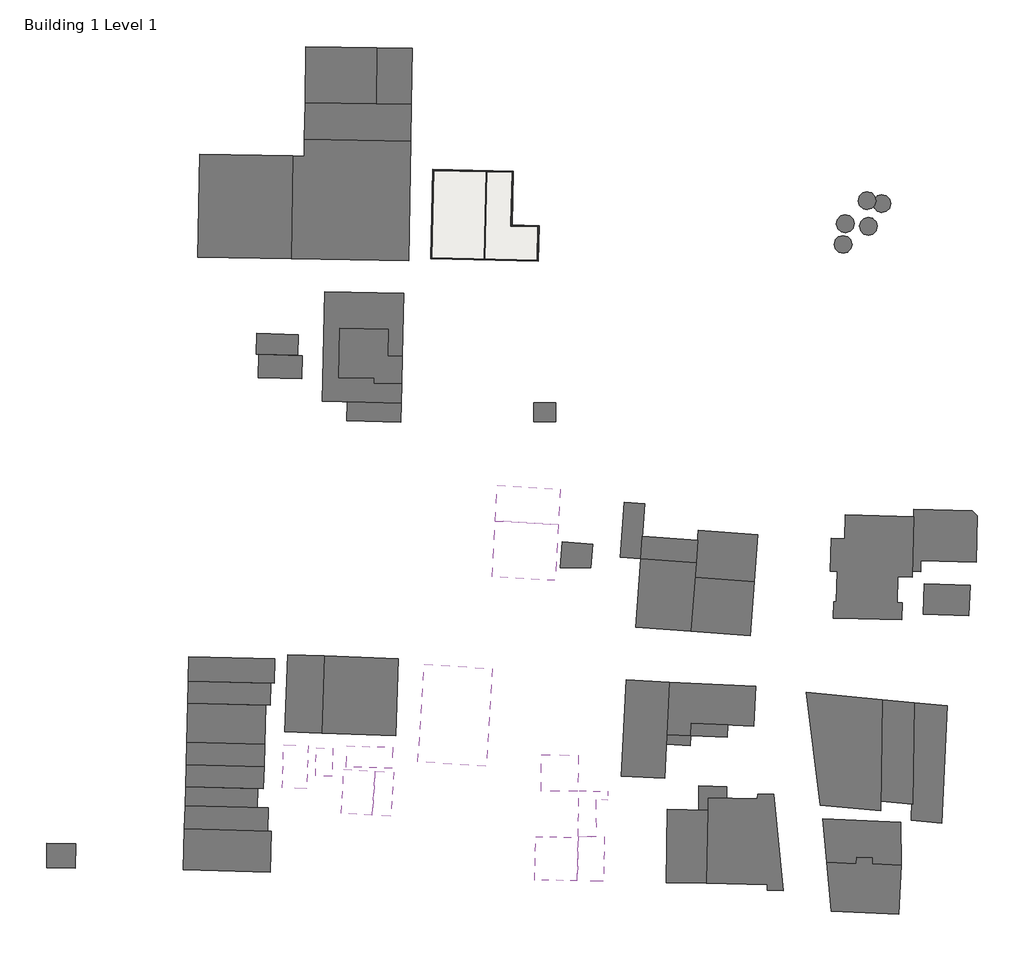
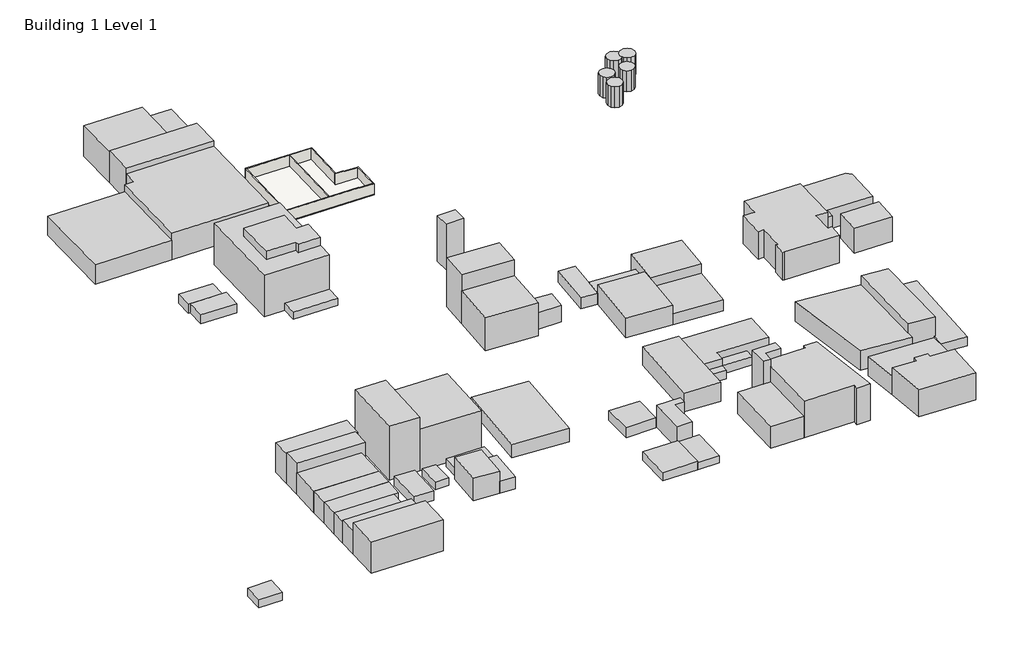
# One storey, incomplete: 60 proxies, 7 walls, 1 slab.
"""IFC4 building model written with IfcOpenShell, lengths in millimetres."""

from ifc_helpers import new_model, si_unit, frame, origin, origin_with_axes, place, context, project, spatial, polyline, outline, extrude, faceted_brep, triangles, element, save

model = new_model("IFC4")

# Units and contexts
model_context = context("Model", 3, world=origin())
ifc_project = project(units=[si_unit("LENGTHUNIT", "METRE", prefix="MILLI")], contexts=[model_context])

# Site, building, storey
site = spatial("IfcSite", under=ifc_project)
building = spatial("IfcBuilding", under=site)
storey = spatial("IfcBuildingStorey", under=building, Name="Building 1 Level 1", Elevation=0.0)

# Proxies
placement = place(None, origin())
element("IfcBuildingElementProxy", 1, Name="Generic Models", at=placement, inside=storey, context=model_context, shape_type="Tessellation", body=[
    triangles([(122449.8188232, -5578.5135635, 9586.0003464), (122449.8188232, -2530.5135635, 9586.0003464), (121334.175293, -1414.8684345, 9586.0003464), (119810.175293, -1006.5136362, 9586.0003464), (118286.175293, -1414.8684345, 9586.0003464), (118286.175293, -6694.1588379, 9586.0003464), (121334.175293, -6694.1588379, 9586.0003464), (119810.175293, -7102.5135635, 9586.0003464), (121334.175293, -6694.1588379, 441.9999104), (119810.175293, -7102.5135635, 441.9999104), (117170.5317627, -5578.5135635, 441.9999104), (119810.175293, -1006.5136362, 441.9999104), (121334.175293, -1414.8684345, 441.9999104), (122449.8188232, -2530.5135635, 441.9999104), (122858.175293, -4054.5138542, 441.9999104), (122449.8188232, -5578.5135635, 441.9999104), (122858.175293, -4054.5138542, 9586.0003464), (118286.175293, -1414.8684345, 441.9999104), (117170.5317627, -2530.5135635, 441.9999104), (117170.5317627, -2530.5135635, 9586.0003464), (116762.175293, -4054.5138542, 441.9999104), (117170.5317627, -5578.5135635, 9586.0003464), (116762.175293, -4054.5138542, 9586.0003464), (118286.175293, -6694.1588379, 441.9999104)], [[16, 17, 1], [16, 15, 17], [9, 1, 7], [9, 16, 1], [10, 7, 8], [10, 9, 7], [24, 8, 6], [24, 10, 8], [11, 6, 22], [11, 24, 6], [21, 22, 23], [21, 11, 22], [19, 23, 20], [19, 21, 23], [18, 20, 5], [18, 19, 20], [12, 5, 4], [12, 18, 5], [13, 4, 3], [13, 12, 4], [14, 3, 2], [14, 13, 3], [15, 2, 17], [15, 14, 2], [14, 15, 16], [12, 13, 14], [19, 18, 12], [11, 21, 19], [10, 24, 11], [16, 9, 10], [12, 14, 16], [11, 19, 12], [16, 10, 11], [11, 12, 16], [1, 4, 22], [22, 8, 1], [4, 20, 22], [1, 2, 4], [8, 7, 1], [22, 6, 8], [20, 23, 22], [4, 5, 20], [2, 3, 4], [1, 17, 2]]),
])
element("IfcBuildingElementProxy", 2, Name="Generic Models", at=placement, inside=storey, context=model_context, shape_type="Tessellation", body=[
    triangles([(123179.0115234, 1482.4019577, 9182.5057892), (123179.0115234, 4530.4022484, 9182.5057892), (122063.3679932, 5646.0472321, 9182.5057892), (120539.3679932, 6054.4019577, 9182.5057892), (119015.3679932, 5646.0472321, 9182.5057892), (119015.3679932, 366.7567197, 9182.5057892), (122063.3679932, 366.7567197, 9182.5057892), (120539.3679932, -41.5980378, 9182.5057892), (122063.3679932, 366.7567197, 38.5056075), (120539.3679932, -41.5980378, 38.5056075), (117899.7244629, 1482.4019577, 38.5056075), (120539.3679932, 6054.4019577, 38.5056075), (122063.3679932, 5646.0472321, 38.5056075), (123179.0115234, 4530.4022484, 38.5056075), (123587.3679932, 3006.4019577, 38.5056075), (123179.0115234, 1482.4019577, 38.5056075), (123587.3679932, 3006.4019577, 9182.5057892), (119015.3679932, 5646.0472321, 38.5056075), (117899.7244629, 4530.4022484, 38.5056075), (117899.7244629, 4530.4022484, 9182.5057892), (117491.3679932, 3006.4019577, 38.5056075), (117899.7244629, 1482.4019577, 9182.5057892), (117491.3679932, 3006.4019577, 9182.5057892), (119015.3679932, 366.7567197, 38.5056075)], [[16, 17, 1], [16, 15, 17], [9, 1, 7], [9, 16, 1], [10, 7, 8], [10, 9, 7], [24, 8, 6], [24, 10, 8], [11, 6, 22], [11, 24, 6], [21, 22, 23], [21, 11, 22], [19, 23, 20], [19, 21, 23], [18, 20, 5], [18, 19, 20], [12, 5, 4], [12, 18, 5], [13, 4, 3], [13, 12, 4], [14, 3, 2], [14, 13, 3], [15, 2, 17], [15, 14, 2], [14, 15, 16], [12, 13, 14], [19, 18, 12], [11, 21, 19], [10, 24, 11], [16, 9, 10], [12, 14, 16], [11, 19, 12], [16, 10, 11], [11, 12, 16], [1, 4, 22], [22, 8, 1], [4, 20, 22], [1, 2, 4], [8, 7, 1], [22, 6, 8], [20, 23, 22], [4, 5, 20], [2, 3, 4], [1, 17, 2]]),
])
element("IfcBuildingElementProxy", 3, Name="Generic Models", at=placement, inside=storey, context=model_context, shape_type="Tessellation", body=[
    triangles([(131074.2412354, 617.6017645, 9810.1628265), (131074.2412354, 3665.6018372, 9810.1628265), (129958.5977051, 4781.2471115, 9810.1628265), (128434.5977051, 5189.6018372, 9810.1628265), (126910.5977051, 4781.2471115, 9810.1628265), (126910.5977051, -498.0435462, 9810.1628265), (129958.5977051, -498.0435462, 9810.1628265), (128434.5977051, -906.3983082, 9810.1628265), (129958.5977051, -498.0435462, 666.1628265), (128434.5977051, -906.3983082, 666.1628265), (125794.9541748, 617.6017645, 666.1628265), (128434.5977051, 5189.6018372, 666.1628265), (129958.5977051, 4781.2471115, 666.1628265), (131074.2412354, 3665.6018372, 666.1628265), (131482.5977051, 2141.6018372, 666.1628265), (131074.2412354, 617.6017645, 666.1628265), (131482.5977051, 2141.6018372, 9810.1628265), (126910.5977051, 4781.2471115, 666.1628265), (125794.9541748, 3665.6018372, 666.1628265), (125794.9541748, 3665.6018372, 9810.1628265), (125386.5977051, 2141.6018372, 666.1628265), (125794.9541748, 617.6017645, 9810.1628265), (125386.5977051, 2141.6018372, 9810.1628265), (126910.5977051, -498.0435462, 666.1628265)], [[16, 17, 1], [16, 15, 17], [9, 1, 7], [9, 16, 1], [10, 7, 8], [10, 9, 7], [24, 8, 6], [24, 10, 8], [11, 6, 22], [11, 24, 6], [21, 22, 23], [21, 11, 22], [19, 23, 20], [19, 21, 23], [18, 20, 5], [18, 19, 20], [12, 5, 4], [12, 18, 5], [13, 4, 3], [13, 12, 4], [14, 3, 2], [14, 13, 3], [15, 2, 17], [15, 14, 2], [14, 15, 16], [12, 13, 14], [19, 18, 12], [11, 21, 19], [10, 24, 11], [16, 9, 10], [12, 14, 16], [11, 19, 12], [16, 10, 11], [11, 12, 16], [1, 4, 22], [22, 8, 1], [4, 20, 22], [1, 2, 4], [8, 7, 1], [22, 6, 8], [20, 23, 22], [4, 5, 20], [2, 3, 4], [1, 17, 2]]),
])
element("IfcBuildingElementProxy", 4, Name="Generic Models", at=placement, inside=storey, context=model_context, shape_type="Tessellation", body=[
    triangles([(130608.33479, 9325.626123, 9180.0780304), (130608.33479, 12373.626123, 9180.0780304), (129492.6912598, 13489.270816, 9180.0780304), (127968.6912598, 13897.626123, 9180.0780304), (126444.6912598, 13489.270816, 9180.0780304), (126444.6912598, 8209.9808487, 9180.0780304), (129492.6912598, 8209.9808487, 9180.0780304), (127968.6912598, 7801.626123, 9180.0780304), (129492.6912598, 8209.9808487, 36.0780281), (127968.6912598, 7801.626123, 36.0780281), (125329.0477295, 9325.626123, 36.0780281), (127968.6912598, 13897.626123, 36.0780281), (129492.6912598, 13489.270816, 36.0780281), (130608.33479, 12373.626123, 36.0780281), (131016.6912598, 10849.626123, 36.0780281), (130608.33479, 9325.626123, 36.0780281), (131016.6912598, 10849.626123, 9180.0780304), (126444.6912598, 13489.270816, 36.0780281), (125329.0477295, 12373.626123, 36.0780281), (125329.0477295, 12373.626123, 9180.0780304), (124920.6912598, 10849.626123, 36.0780281), (125329.0477295, 9325.626123, 9180.0780304), (124920.6912598, 10849.626123, 9180.0780304), (126444.6912598, 8209.9808487, 36.0780281)], [[16, 17, 1], [16, 15, 17], [9, 1, 7], [9, 16, 1], [10, 7, 8], [10, 9, 7], [24, 8, 6], [24, 10, 8], [11, 6, 22], [11, 24, 6], [21, 22, 23], [21, 11, 22], [19, 23, 20], [19, 21, 23], [18, 20, 5], [18, 19, 20], [12, 5, 4], [12, 18, 5], [13, 4, 3], [13, 12, 4], [14, 3, 2], [14, 13, 3], [15, 2, 17], [15, 14, 2], [14, 15, 16], [12, 13, 14], [19, 18, 12], [11, 21, 19], [10, 24, 11], [16, 9, 10], [12, 14, 16], [11, 19, 12], [16, 10, 11], [11, 12, 16], [1, 4, 22], [22, 8, 1], [4, 20, 22], [1, 2, 4], [8, 7, 1], [22, 6, 8], [20, 23, 22], [4, 5, 20], [2, 3, 4], [1, 17, 2]]),
])
element("IfcBuildingElementProxy", 5, Name="Generic Models", at=placement, inside=storey, context=model_context, shape_type="Tessellation", body=[
    triangles([(135650.3619141, 8340.4676514, 9330.1153839), (135650.3619141, 11388.4676514, 9330.1153839), (134534.7183838, 12504.1123444, 9330.1153839), (133010.7183838, 12912.4676514, 9330.1153839), (131486.7183838, 12504.1123444, 9330.1153839), (131486.7183838, 7224.822377, 9330.1153839), (134534.7183838, 7224.822377, 9330.1153839), (133010.7183838, 6816.4676514, 9330.1153839), (134534.7183838, 7224.822377, 186.1152386), (133010.7183838, 6816.4676514, 186.1152386), (130371.0748535, 8340.4676514, 186.1152386), (133010.7183838, 12912.4676514, 186.1152386), (134534.7183838, 12504.1123444, 186.1152386), (135650.3619141, 11388.4676514, 186.1152386), (136058.7183838, 9864.4676514, 186.1152386), (135650.3619141, 8340.4676514, 186.1152386), (136058.7183838, 9864.4676514, 9330.1153839), (131486.7183838, 12504.1123444, 186.1152386), (130371.0748535, 11388.4676514, 186.1152386), (130371.0748535, 11388.4676514, 9330.1153839), (129962.7183838, 9864.4676514, 186.1152386), (130371.0748535, 8340.4676514, 9330.1153839), (129962.7183838, 9864.4676514, 9330.1153839), (131486.7183838, 7224.822377, 186.1152386)], [[16, 17, 1], [16, 15, 17], [9, 1, 7], [9, 16, 1], [10, 7, 8], [10, 9, 7], [24, 8, 6], [24, 10, 8], [11, 6, 22], [11, 24, 6], [21, 22, 23], [21, 11, 22], [19, 23, 20], [19, 21, 23], [18, 20, 5], [18, 19, 20], [12, 5, 4], [12, 18, 5], [13, 4, 3], [13, 12, 4], [14, 3, 2], [14, 13, 3], [15, 2, 17], [15, 14, 2], [14, 15, 16], [12, 13, 14], [19, 18, 12], [11, 21, 19], [10, 24, 11], [16, 9, 10], [12, 14, 16], [11, 19, 12], [16, 10, 11], [11, 12, 16], [1, 4, 22], [22, 8, 1], [4, 20, 22], [1, 2, 4], [8, 7, 1], [22, 6, 8], [20, 23, 22], [4, 5, 20], [2, 3, 4], [1, 17, 2]]),
])
element("IfcBuildingElementProxy", 6, Name="Generic Models", at=placement, inside=storey, context=model_context, shape_type="SweptSolid", body=[
    extrude(outline(polyline([(21939.5635295, -57968.5058491), (21980.9932444, -64358.7731376), (14516.3685734, -64407.1681825), (14474.9388585, -58016.9008939), (21939.5635295, -57968.5058491)])), frame((0.0, 0.0, 119.5273507), z_axis=(0.0, 0.0, 1.0), x_axis=(1.0, 0.0, 0.0)), (0.0, 0.0, 1.0), 20116.8),
])
element("IfcBuildingElementProxy", 7, Name="Generic Models", at=placement, inside=storey, context=model_context, shape_type="SweptSolid", body=[
    extrude(outline(polyline([(-30501.1282495, -51424.6629848), (-39749.1862067, -51223.223163), (-39714.0648617, -49610.8099321), (-51962.0104973, -49344.0270035), (-51596.483399, -32562.7582274), (-34953.7562435, -32925.2676328), (-35152.8071139, -42063.6493598), (-30299.5306766, -42169.3627047), (-30501.1282495, -51424.6629848)])), frame((0.0, 0.0, 535.2819969), z_axis=(0.0, 0.0, 1.0), x_axis=(1.0, 0.0, 0.0)), (0.0, 0.0, 1.0), 21945.6),
])
element("IfcBuildingElementProxy", 8, Name="Generic Models", at=placement, inside=storey, context=model_context, shape_type="SweptSolid", body=[
    extrude(outline(polyline([(-30501.1281004, -51424.6626782), (-30645.2238472, -58040.0656721), (-57533.3919371, -57454.3915013), (-56719.9481775, -20109.373349), (-29831.7800876, -20695.0475199), (-30299.5308866, -42169.3627077), (-35152.8071394, -42063.6493626), (-34953.756236, -32925.2673078), (-51596.4831342, -32562.758534), (-51962.0102872, -49344.0271306), (-39714.0648594, -49610.8098912), (-39749.1862324, -51223.2228196), (-30501.1281004, -51424.6626782)])), frame((0.0, 0.0, 535.2817421), z_axis=(0.0, 0.0, 1.0), x_axis=(1.0, 0.0, 0.0)), (0.0, 0.0, 1.0), 18288.0),
])
element("IfcBuildingElementProxy", 9, Name="Generic Models", at=placement, inside=storey, context=model_context, shape_type="SweptSolid", body=[
    extrude(outline(polyline([(-30645.2239137, -58040.0648933), (-30786.2485517, -64514.4878727), (-49201.6688561, -64113.3667239), (-49060.644218, -57638.9437445), (-30645.2239137, -58040.0648933)])), frame((0.0, 0.0, 535.2816887), z_axis=(0.0, 0.0, 1.0), x_axis=(1.0, 0.0, 0.0)), (0.0, 0.0, 1.0), 3048.0),
])
element("IfcBuildingElementProxy", 10, Name="Generic Models", at=placement, inside=storey, context=model_context, shape_type="SweptSolid", body=[
    extrude(outline(polyline([(-80043.5560845, -41483.7521162), (-79868.6562399, -34360.7567245), (-65723.6762249, -34708.0761695), (-65898.5760695, -41831.0715612), (-80043.5560845, -41483.7521162)])), frame((0.0, 0.0, 181.3121406), z_axis=(0.0, 0.0, 1.0), x_axis=(1.0, 0.0, 0.0)), (0.0, 0.0, 1.0), 3962.4),
])
element("IfcBuildingElementProxy", 11, Name="Generic Models", at=placement, inside=storey, context=model_context, shape_type="SweptSolid", body=[
    extrude(outline(polyline([(-79130.8304949, -41506.1635076), (-64368.2240706, -41868.6483004), (-64563.0693763, -49803.9416703), (-79325.6757066, -49441.4568797), (-79130.8304949, -41506.1635076)])), frame((0.0, 0.0, 181.3121406), z_axis=(0.0, 0.0, 1.0), x_axis=(1.0, 0.0, 0.0)), (0.0, 0.0, 1.0), 3962.3999798),
])
element("IfcBuildingElementProxy", 12, Name="Generic Models", at=placement, inside=storey, context=model_context, shape_type="SweptSolid", body=[
    extrude(outline(polyline([(362.7563064, -117201.6173356), (1458.4008949, -98206.5087121), (22816.8212397, -99438.4699571), (21721.1766784, -118433.5781091), (362.7563064, -117201.6173356)])), frame((0.0, 0.0, 1343.5505682), z_axis=(0.0, 0.0, 1.0), x_axis=(1.0, 0.0, 0.0)), (0.0, 0.0, 1.0), 14630.4),
])
element("IfcBuildingElementProxy", 13, Name="Generic Models", at=placement, inside=storey, context=model_context, shape_type="SweptSolid", body=[
    extrude(outline(polyline([(1458.4010625, -98206.5084832), (2157.1287945, -86092.7126984), (23515.549335, -87324.6737044), (22816.8216186, -99438.4692179), (1458.4010625, -98206.5084832)])), frame((0.0, 0.0, 1343.5507162), z_axis=(0.0, 0.0, 1.0), x_axis=(1.0, 0.0, 0.0)), (0.0, 0.0, 1.0), 21640.8002808),
])
element("IfcBuildingElementProxy", 14, Name="Generic Models", at=placement, inside=storey, context=model_context, shape_type="SweptSolid", body=[
    extrude(outline(polyline([(23555.1794345, -114080.6899242), (24234.3619096, -105243.3780103), (34587.0693816, -106039.0246451), (33970.43274, -114062.5095536), (23555.1794345, -114080.6899242)])), frame((0.0, 0.0, 598.9723737), z_axis=(0.0, 0.0, 1.0), x_axis=(1.0, 0.0, 0.0)), (0.0, 0.0, 1.0), 7315.2),
])
element("IfcBuildingElementProxy", 15, Name="Generic Models", at=placement, inside=storey, context=model_context, shape_type="SweptSolid", body=[
    extrude(outline(polyline([(49160.7242168, -134405.5926024), (50896.6849999, -111072.9325827), (69739.7833916, -112474.8678877), (68003.8226085, -135807.5279073), (49160.7242168, -134405.5926024)])), frame((0.0, 0.0, 598.9724172), z_axis=(0.0, 0.0, 1.0), x_axis=(1.0, 0.0, 0.0)), (0.0, 0.0, 1.0), 8534.4),
])
element("IfcBuildingElementProxy", 16, Name="Generic Models", at=placement, inside=storey, context=model_context, shape_type="SweptSolid", body=[
    extrude(outline(polyline([(68003.8226442, -135807.5283713), (69371.6354166, -117423.0666264), (89523.5719236, -118922.3803689), (88155.7591512, -137306.8421137), (68003.8226442, -135807.5283713)])), frame((0.0, 0.0, 598.9724241), z_axis=(0.0, 0.0, 1.0), x_axis=(1.0, 0.0, 0.0)), (0.0, 0.0, 1.0), 4876.8),
])
element("IfcBuildingElementProxy", 17, Name="Generic Models", at=placement, inside=storey, context=model_context, shape_type="SweptSolid", body=[
    extrude(outline(polyline([(69371.6350967, -117423.0665145), (70570.9058819, -101303.9401715), (90722.8422858, -102803.2537457), (89523.5716646, -118922.3803282), (69371.6350967, -117423.0665145)])), frame((0.0, 0.0, 598.972394), z_axis=(0.0, 0.0, 1.0), x_axis=(1.0, 0.0, 0.0)), (0.0, 0.0, 1.0), 9144.0),
])
element("IfcBuildingElementProxy", 18, Name="Generic Models", at=placement, inside=storey, context=model_context, shape_type="SweptSolid", body=[
    extrude(outline(polyline([(69739.7836046, -112474.8676962), (50896.6849642, -111072.9321188), (51468.4374609, -103388.1390758), (70311.5358386, -104790.0746336), (69739.7836046, -112474.8676962)])), frame((0.0, 0.0, 598.9724241), z_axis=(0.0, 0.0, 1.0), x_axis=(1.0, 0.0, 0.0)), (0.0, 0.0, 1.0), 4876.8000301),
])
element("IfcBuildingElementProxy", 19, Name="Generic Models", at=placement, inside=storey, context=model_context, shape_type="SweptSolid", body=[
    extrude(outline(polyline([(50896.6852839, -111072.932095), (43986.2417597, -110558.7918752), (45380.1249396, -91823.9202926), (52290.5684638, -92338.0605124), (50896.6852839, -111072.932095)])), frame((0.0, 0.0, 598.972409), z_axis=(0.0, 0.0, 1.0), x_axis=(1.0, 0.0, 0.0)), (0.0, 0.0, 1.0), 4876.8000603),
])
element("IfcBuildingElementProxy", 20, Name="Generic Models", at=placement, inside=storey, context=model_context, shape_type="SweptSolid", body=[
    extrude(outline(polyline([(117390.534194, -131260.4427507), (116532.4832648, -131239.0084212), (116671.4088452, -125677.59241), (117529.4597744, -125699.0267395), (117788.3259823, -115336.1931271), (115448.6512229, -115277.7474591), (115728.2468775, -104085.0805192), (120415.8676885, -104202.1784742), (120617.806637, -96118.2352696), (143829.9410868, -96698.0802666), (143315.7768165, -117280.9088423), (138465.8154627, -117159.7555794), (138244.5207535, -126018.5412411), (139863.807461, -126058.9914332), (139719.9400492, -131818.2369638), (117390.534194, -131260.4427507)])), frame((0.0, 0.0, 413.2098301), z_axis=(0.0, 0.0, 1.0), x_axis=(1.0, 0.0, 0.0)), (0.0, 0.0, 1.0), 12192.0),
])
element("IfcBuildingElementProxy", 21, Name="Generic Models", at=placement, inside=storey, context=model_context, shape_type="SweptSolid", body=[
    extrude(outline(polyline([(143364.7130893, -115321.898309), (143890.7365095, -94264.3565806), (163770.1432231, -94760.9498509), (165542.2845444, -96364.9974262), (165147.2263804, -112179.7947387), (146295.0655855, -111708.8623655), (146203.0397558, -115392.8005216), (143364.7130893, -115321.898309)])), frame((0.0, 0.0, 413.2096355), z_axis=(0.0, 0.0, 1.0), x_axis=(1.0, 0.0, 0.0)), (0.0, 0.0, 1.0), 8534.4),
])
element("IfcBuildingElementProxy", 22, Name="Generic Models", at=placement, inside=storey, context=model_context, shape_type="SweptSolid", body=[
    extrude(outline(polyline([(147474.6870918, -119517.175646), (163019.6160716, -120072.3986166), (162646.7377176, -130512.1099373), (147101.8087377, -129956.8869667), (147474.6870918, -119517.175646)])), frame((0.0, 0.0, 945.4610232), z_axis=(0.0, 0.0, 1.0), x_axis=(1.0, 0.0, 0.0)), (0.0, 0.0, 1.0), 10972.8),
])
element("IfcBuildingElementProxy", 23, Name="Generic Models", at=placement, inside=storey, context=model_context, shape_type="SweptSolid", body=[
    extrude(outline(polyline([(-151355.4530322, -216219.5355296), (-151254.9983982, -207860.191637), (-141495.9870962, -207977.466141), (-141596.4417302, -216336.8100336), (-151355.4530322, -216219.5355296)])), frame((0.0, 0.0, 1064.2277307), z_axis=(0.0, 0.0, 1.0), x_axis=(1.0, 0.0, 0.0)), (0.0, 0.0, 1.0), 3657.6),
])
element("IfcBuildingElementProxy", 24, Name="Generic Models", at=placement, inside=storey, context=model_context, shape_type="SweptSolid", body=[
    extrude(outline(polyline([(-103111.7033654, -152728.0077582), (-102893.8171594, -144354.0142461), (-73688.5539926, -145113.917389), (-73906.4401987, -153487.9109011), (-103111.7033654, -152728.0077582)])), frame((0.0, 0.0, 413.6726223), z_axis=(0.0, 0.0, 1.0), x_axis=(1.0, 0.0, 0.0)), (0.0, 0.0, 1.0), 13106.4),
])
element("IfcBuildingElementProxy", 25, Name="Generic Models", at=placement, inside=storey, context=model_context, shape_type="SweptSolid", body=[
    extrude(outline(polyline([(-103111.7032335, -152728.0077949), (-74947.3164486, -153460.8280175), (-75142.9089765, -160978.0195831), (-103307.2957835, -160245.2002096), (-103111.7032335, -152728.0077949)])), frame((0.0, 0.0, 413.6728542), z_axis=(0.0, 0.0, 1.0), x_axis=(1.0, 0.0, 0.0)), (0.0, 0.0, 1.0), 13716.0),
])
element("IfcBuildingElementProxy", 26, Name="Generic Models", at=placement, inside=storey, context=model_context, shape_type="SweptSolid", body=[
    extrude(outline(polyline([(-103307.2959308, -160245.2000923), (-76735.4247372, -160936.5831755), (-77079.2491549, -174150.7597506), (-103651.1203486, -173459.3766674), (-103307.2959308, -160245.2000923)])), frame((0.0, 0.0, 413.6730526), z_axis=(0.0, 0.0, 1.0), x_axis=(1.0, 0.0, 0.0)), (0.0, 0.0, 1.0), 9448.8),
])
element("IfcBuildingElementProxy", 27, Name="Generic Models", at=placement, inside=storey, context=model_context, shape_type="SweptSolid", body=[
    extrude(outline(polyline([(-103651.1201381, -173459.3768063), (-77063.8877994, -174151.1595098), (-77262.3585539, -181778.9710117), (-103849.5908926, -181087.1883083), (-103651.1201381, -173459.3768063)])), frame((0.0, 0.0, 413.6730091), z_axis=(0.0, 0.0, 1.0), x_axis=(1.0, 0.0, 0.0)), (0.0, 0.0, 1.0), 9448.800087),
])
element("IfcBuildingElementProxy", 28, Name="Generic Models", at=placement, inside=storey, context=model_context, shape_type="SweptSolid", body=[
    extrude(outline(polyline([(-103849.5911755, -181087.1883877), (-77262.3585858, -181778.9711006), (-77594.6818811, -189390.0638766), (-104047.7180534, -188701.7717945), (-103849.5911755, -181087.1883877)])), frame((0.0, 0.0, 413.6730091), z_axis=(0.0, 0.0, 1.0), x_axis=(1.0, 0.0, 0.0)), (0.0, 0.0, 1.0), 9448.800087),
])
element("IfcBuildingElementProxy", 29, Name="Generic Models", at=placement, inside=storey, context=model_context, shape_type="SweptSolid", body=[
    extrude(outline(polyline([(-104047.7184878, -188701.771865), (-79479.5595131, -189341.0205218), (-79646.9468072, -195774.1942294), (-104215.1057819, -195134.9455725), (-104047.7184878, -188701.771865)])), frame((0.0, 0.0, 413.6730091), z_axis=(0.0, 0.0, 1.0), x_axis=(1.0, 0.0, 0.0)), (0.0, 0.0, 1.0), 9448.800087),
])
element("IfcBuildingElementProxy", 30, Name="Generic Models", at=placement, inside=storey, context=model_context, shape_type="SweptSolid", body=[
    extrude(outline(polyline([(-104215.1057035, -195134.9456899), (-75912.3677241, -195871.3657783), (-76117.9281162, -203771.6417329), (-104420.6660956, -203035.2216445), (-104215.1057035, -195134.9456899)])), frame((0.0, 0.0, 413.6730091), z_axis=(0.0, 0.0, 1.0), x_axis=(1.0, 0.0, 0.0)), (0.0, 0.0, 1.0), 10058.4),
])
element("IfcBuildingElementProxy", 31, Name="Generic Models", at=placement, inside=storey, context=model_context, shape_type="SweptSolid", body=[
    extrude(outline(polyline([(-104420.6663468, -203035.2217262), (-74779.8752768, -203806.4569589), (-75141.2447551, -217694.9267159), (-104782.0358251, -216923.6914832), (-104420.6663468, -203035.2217262)])), frame((0.0, 0.0, 413.6729321), z_axis=(0.0, 0.0, 1.0), x_axis=(1.0, 0.0, 0.0)), (0.0, 0.0, 1.0), 13716.0),
])
element("IfcBuildingElementProxy", 32, Name="Generic Models", at=placement, inside=storey, context=model_context, shape_type="SweptSolid", body=[
    extrude(outline(polyline([(-70613.0931445, -174417.0293676), (-62288.1886094, -174693.0474003), (-62773.879137, -189341.8268156), (-71098.7836721, -189065.8087829), (-70613.0931445, -174417.0293676)])), frame((0.0, 0.0, 1274.8772529), z_axis=(0.0, 0.0, 1.0), x_axis=(1.0, 0.0, 0.0)), (0.0, 0.0, 1.0), 4267.2),
])
element("IfcBuildingElementProxy", 33, Name="Generic Models", at=placement, inside=storey, context=model_context, shape_type="SweptSolid", body=[
    extrude(outline(polyline([(-59555.6327982, -175424.1753696), (-53925.1241823, -175535.875999), (-54114.9194299, -185102.9105146), (-59745.4280459, -184991.2098852), (-59555.6327982, -175424.1753696)])), frame((0.0, 0.0, 2304.6953941), z_axis=(0.0, 0.0, 1.0), x_axis=(1.0, 0.0, 0.0)), (0.0, 0.0, 1.0), 3237.3818553),
])
element("IfcBuildingElementProxy", 34, Name="Generic Models", at=placement, inside=storey, context=model_context, shape_type="SweptSolid", body=[
    extrude(outline(polyline([(-49298.7218827, -181948.4035988), (-49110.5262148, -174765.7351941), (-33545.6608825, -175173.5558063), (-33733.8565503, -182356.224211), (-49298.7218827, -181948.4035988)])), frame((0.0, 0.0, 2386.4604141), z_axis=(0.0, 0.0, 1.0), x_axis=(1.0, 0.0, 0.0)), (0.0, 0.0, 1.0), 3657.6),
])
element("IfcBuildingElementProxy", 35, Name="Generic Models", at=placement, inside=storey, context=model_context, shape_type="SweptSolid", body=[
    extrude(outline(polyline([(-39558.18158, -183297.0320773), (-40478.4723332, -198277.7786622), (-51038.0216836, -197629.0889877), (-50117.7309304, -182648.3424029), (-39558.18158, -183297.0320773)])), frame((0.0, 0.0, 2050.5834324), z_axis=(0.0, 0.0, 1.0), x_axis=(1.0, 0.0, 0.0)), (0.0, 0.0, 1.0), 9753.6),
])
element("IfcBuildingElementProxy", 36, Name="Generic Models", at=placement, inside=storey, context=model_context, shape_type="SweptSolid", body=[
    extrude(outline(polyline([(-40478.4724395, -198277.778779), (-39558.1814925, -183297.0320329), (-33231.5916562, -183685.6844446), (-34151.8826032, -198666.4311907), (-40478.4724395, -198277.778779)])), frame((0.0, 0.0, 2050.5833721), z_axis=(0.0, 0.0, 1.0), x_axis=(1.0, 0.0, 0.0)), (0.0, 0.0, 1.0), 5329.8374201),
])
element("IfcBuildingElementProxy", 37, Name="Generic Models", at=placement, inside=storey, context=model_context, shape_type="SweptSolid", body=[
    extrude(outline(polyline([(-56767.8705308, -144129.8489557), (-31580.8148933, -145018.0626272), (-32507.7995411, -171304.545992), (-57694.8551786, -170416.3323205), (-56767.8705308, -144129.8489557)])), frame((0.0, 0.0, 995.5716268), z_axis=(0.0, 0.0, 1.0), x_axis=(1.0, 0.0, 0.0)), (0.0, 0.0, 1.0), 18288.0),
])
element("IfcBuildingElementProxy", 38, Name="Generic Models", at=placement, inside=storey, context=model_context, shape_type="SweptSolid", body=[
    extrude(outline(polyline([(-56767.8704364, -144129.8485359), (-57694.8555587, -170416.3322887), (-70234.6906347, -169974.118691), (-69307.7055123, -143687.6349381), (-56767.8704364, -144129.8485359)])), frame((0.0, 0.0, 995.5715734), z_axis=(0.0, 0.0, 1.0), x_axis=(1.0, 0.0, 0.0)), (0.0, 0.0, 1.0), 23774.4),
])
element("IfcBuildingElementProxy", 39, Name="Generic Models", at=placement, inside=storey, context=model_context, shape_type="SweptSolid", body=[
    extrude(outline(polyline([(-22735.0131255, -146922.4087636), (431.6315284, -148450.4141807), (-1762.2884738, -181713.2315232), (-24928.9331277, -180185.226106), (-22735.0131255, -146922.4087636)])), frame((0.0, 0.0, 1206.6619984), z_axis=(0.0, 0.0, 1.0), x_axis=(1.0, 0.0, 0.0)), (0.0, 0.0, 1.0), 5791.2),
])
element("IfcBuildingElementProxy", 40, Name="Generic Models", at=placement, inside=storey, context=model_context, shape_type="SweptSolid", body=[
    extrude(outline(polyline([(133178.8875351, -159050.7420832), (132543.6854191, -196905.3082959), (111999.4123706, -194934.3377969), (107177.2777002, -156556.2071931), (133178.8875351, -159050.7420832)])), frame((0.0, 0.0, 907.1660993), z_axis=(0.0, 0.0, 1.0), x_axis=(1.0, 0.0, 0.0)), (0.0, 0.0, 1.0), 8534.4),
])
element("IfcBuildingElementProxy", 41, Name="Generic Models", at=placement, inside=storey, context=model_context, shape_type="SweptSolid", body=[
    extrude(outline(polyline([(133178.8875188, -159050.7421805), (143972.2984222, -160086.2375321), (143487.8606975, -194644.4762181), (132599.1511508, -193599.8381309), (133178.8875188, -159050.7421805)])), frame((0.0, 0.0, 907.1661062), z_axis=(0.0, 0.0, 1.0), x_axis=(1.0, 0.0, 0.0)), (0.0, 0.0, 1.0), 12496.8),
])
element("IfcBuildingElementProxy", 42, Name="Generic Models", at=placement, inside=storey, context=model_context, shape_type="SweptSolid", body=[
    extrude(outline(polyline([(143972.2982919, -160086.2375868), (155246.776882, -161167.8859178), (153314.4600262, -201000.8621892), (142973.2246721, -200008.7471328), (143972.2982919, -160086.2375868)])), frame((0.0, 0.0, 907.1658948), z_axis=(0.0, 0.0, 1.0), x_axis=(1.0, 0.0, 0.0)), (0.0, 0.0, 1.0), 3962.4),
])
element("IfcBuildingElementProxy", 43, Name="Generic Models", at=placement, inside=storey, context=model_context, shape_type="SweptSolid", body=[
    extrude(outline(polyline([(114189.5112203, -214320.2300833), (124275.4633946, -214786.606911), (124379.3095761, -212640.8231883), (129779.8988563, -212902.1871687), (129685.8472715, -214845.5841872), (139567.3240509, -215323.8027611), (138756.6594519, -232074.6440054), (115702.906226, -230958.9471074), (114189.5112203, -214320.2300833)])), frame((0.0, 0.0, 999.5767336), z_axis=(0.0, 0.0, 1.0), x_axis=(1.0, 0.0, 0.0)), (0.0, 0.0, 1.0), 11887.2),
])
element("IfcBuildingElementProxy", 44, Name="Generic Models", at=placement, inside=storey, context=model_context, shape_type="SweptSolid", body=[
    extrude(outline(polyline([(114189.510966, -214320.2303544), (112844.6696942, -199534.6467164), (139453.8910724, -200798.138634), (139567.3243053, -215323.8028183), (129685.8471877, -214845.5842629), (129779.898772, -212902.1871118), (124379.3095595, -212640.8232346), (124275.4634864, -214786.6071358), (114189.510966, -214320.2303544)])), frame((0.0, 0.0, 999.5765558), z_axis=(0.0, 0.0, 1.0), x_axis=(1.0, 0.0, 0.0)), (0.0, 0.0, 1.0), 8229.6),
])
element("IfcBuildingElementProxy", 45, Name="Generic Models", at=placement, inside=storey, context=model_context, shape_type="SweptSolid", body=[
    extrude(outline(polyline([(59538.8255691, -221272.6526197), (60019.9091204, -196344.6456265), (73720.0773278, -196609.044043), (73238.9937765, -221537.0510361), (59538.8255691, -221272.6526197)])), frame((0.0, 0.0, 737.5409173), z_axis=(0.0, 0.0, 1.0), x_axis=(1.0, 0.0, 0.0)), (0.0, 0.0, 1.0), 9448.8),
])
element("IfcBuildingElementProxy", 46, Name="Generic Models", at=placement, inside=storey, context=model_context, shape_type="SweptSolid", body=[
    extrude(outline(polyline([(73238.9938183, -221537.0511817), (73802.2077702, -192353.3345811), (90660.8545378, -192678.6881061), (90690.2558297, -191155.219155), (96121.5298422, -191260.0368292), (99408.9346277, -223995.1005562), (93959.2734337, -223889.9280293), (93996.9501361, -221937.657135), (73238.9938183, -221537.0511817)])), frame((0.0, 0.0, 737.5408738), z_axis=(0.0, 0.0, 1.0), x_axis=(1.0, 0.0, 0.0)), (0.0, 0.0, 1.0), 16154.4),
])
element("IfcBuildingElementProxy", 47, Name="Generic Models", at=placement, inside=storey, context=model_context, shape_type="SweptSolid", body=[
    extrude(outline(polyline([(80182.024442, -192476.4578048), (73802.2080267, -192353.3342554), (73720.0774358, -196609.0440228), (70584.5110093, -196548.5309857), (70741.9667566, -188389.7444083), (80257.3495986, -188573.3809948), (80182.024442, -192476.4578048)])), frame((0.0, 0.0, 737.5409379), z_axis=(0.0, 0.0, 1.0), x_axis=(1.0, 0.0, 0.0)), (0.0, 0.0, 1.0), 19507.2),
])
element("IfcBuildingElementProxy", 48, Name="Generic Models", at=placement, inside=storey, context=model_context, shape_type="SweptSolid", body=[
    extrude(outline(polyline([(59732.7920897, -170960.6778485), (67958.9917916, -171350.8279048), (67803.5504795, -174628.2629406), (59577.3510667, -174238.1129553), (59732.7920897, -170960.6778485)])), frame((0.0, 0.0, 279.6514559), z_axis=(0.0, 0.0, 1.0), x_axis=(1.0, 0.0, 0.0)), (0.0, 0.0, 1.0), 3657.6),
])
element("IfcBuildingElementProxy", 49, Name="Generic Models", at=placement, inside=storey, context=model_context, shape_type="SweptSolid", body=[
    extrude(outline(polyline([(68164.803694, -167011.3494259), (80545.0771862, -167598.518416), (80343.792087, -171842.5514284), (67958.9917166, -171350.8279187), (68164.803694, -167011.3494259)])), frame((0.0, 0.0, 279.6514559), z_axis=(0.0, 0.0, 1.0), x_axis=(1.0, 0.0, 0.0)), (0.0, 0.0, 1.0), 3657.6),
])
element("IfcBuildingElementProxy", 50, Name="Generic Models", at=placement, inside=storey, context=model_context, shape_type="SweptSolid", body=[
    extrude(outline(polyline([(60584.4400067, -153003.9344099), (90030.1493468, -154400.4793586), (89384.3125712, -168017.7438765), (68164.8037218, -167011.3494455), (67958.9918343, -171350.828117), (59732.7923917, -170960.677649), (60584.4400067, -153003.9344099)])), frame((0.0, 0.0, 279.6513483), z_axis=(0.0, 0.0, 1.0), x_axis=(1.0, 0.0, 0.0)), (0.0, 0.0, 1.0), 6705.6),
])
element("IfcBuildingElementProxy", 51, Name="Generic Models", at=placement, inside=storey, context=model_context, shape_type="SweptSolid", body=[
    extrude(outline(polyline([(45903.6461256, -152307.6574498), (60584.4398093, -153003.9340706), (59031.0744182, -185756.1996817), (44350.2807345, -185059.9230609), (45903.6461256, -152307.6574498)])), frame((0.0, 0.0, 279.6513247), z_axis=(0.0, 0.0, 1.0), x_axis=(1.0, 0.0, 0.0)), (0.0, 0.0, 1.0), 8229.6),
])
element("IfcBuildingElementProxy", 52, Name="Generic Models", at=placement, inside=storey, context=model_context, shape_type="SweptSolid", body=[
    extrude(outline(polyline([(29610.1394124, -205557.3540341), (29909.5610274, -190042.422119), (39653.2110856, -190230.4641582), (39677.3721434, -193169.1145011), (35628.928127, -193090.9838555), (35732.3958271, -205675.507044), (29610.1394124, -205557.3540341)])), frame((0.0, 0.0, 1526.2215333), z_axis=(0.0, 0.0, 1.0), x_axis=(1.0, 0.0, 0.0)), (0.0, 0.0, 1.0), 9753.6),
])
element("IfcBuildingElementProxy", 53, Name="Generic Models", at=placement, inside=storey, context=model_context, shape_type="SweptSolid", body=[
    extrude(outline(polyline([(29318.1066479, -220689.4244474), (29610.1392987, -205557.3542429), (38531.2434126, -205729.5219402), (38239.2107618, -220861.5921447), (29318.1066479, -220689.4244474)])), frame((0.0, 0.0, 1526.221582), z_axis=(0.0, 0.0, 1.0), x_axis=(1.0, 0.0, 0.0)), (0.0, 0.0, 1.0), 3048.0),
])
element("IfcBuildingElementProxy", 54, Name="Generic Models", at=placement, inside=storey, context=model_context, shape_type="SweptSolid", body=[
    extrude(outline(polyline([(17094.7694973, -190244.8026875), (16982.3806993, -177693.3758961), (29709.5199571, -177938.9966644), (29474.1697506, -190133.9542607), (17094.7694973, -190244.8026875)])), frame((0.0, 0.0, 1526.2214679), z_axis=(0.0, 0.0, 1.0), x_axis=(1.0, 0.0, 0.0)), (0.0, 0.0, 1.0), 4267.2),
])
element("IfcBuildingElementProxy", 55, Name="Generic Models", at=placement, inside=storey, context=model_context, shape_type="SweptSolid", body=[
    extrude(outline(polyline([(29318.1065963, -220689.4245427), (14862.8581371, -220410.4539596), (15148.4661584, -205611.2774176), (29603.7146176, -205890.2480007), (29318.1065963, -220689.4245427)])), frame((0.0, 0.0, 1526.221545), z_axis=(0.0, 0.0, 1.0), x_axis=(1.0, 0.0, 0.0)), (0.0, 0.0, 1.0), 3657.6),
])
element("IfcBuildingElementProxy", 56, Name="Generic Models", at=placement, inside=storey, context=model_context, shape_type="SweptSolid", body=[
    extrude(outline(polyline([(-67480.2027861, 26075.1578023), (-68066.0926024, -8982.0836375), (-99826.7952351, -8451.2868188), (-99240.9054188, 26605.954621), (-67480.2027861, 26075.1578023)])), frame((0.0, 0.0, 30.382393), z_axis=(0.0, 0.0, 1.0), x_axis=(1.0, 0.0, 0.0)), (0.0, 0.0, 1.0), 8534.4),
])
element("IfcBuildingElementProxy", 57, Name="Generic Models", at=placement, inside=storey, context=model_context, shape_type="SweptSolid", body=[
    extrude(outline(polyline([(-39200.9986938, 43830.0231517), (-63355.4898663, 44233.7022096), (-63036.495776, 63320.9939264), (-38882.0046485, 62917.3148693), (-39200.9986938, 43830.0231517)])), frame((0.0, 0.0, 30.3825191), z_axis=(0.0, 0.0, 1.0), x_axis=(1.0, 0.0, 0.0)), (0.0, 0.0, 1.0), 13411.2),
])
element("IfcBuildingElementProxy", 58, Name="Generic Models", at=placement, inside=storey, context=model_context, shape_type="SweptSolid", body=[
    extrude(outline(polyline([(-27189.1576214, 43629.2767793), (-39200.9984621, 43830.0232089), (-38882.0044238, 62917.3147054), (-26870.1635831, 62716.5682758), (-27189.1576214, 43629.2767793)])), frame((0.0, 0.0, 30.3825122), z_axis=(0.0, 0.0, 1.0), x_axis=(1.0, 0.0, 0.0)), (0.0, 0.0, 1.0), 8534.4),
])
element("IfcBuildingElementProxy", 59, Name="Generic Models", at=placement, inside=storey, context=model_context, shape_type="SweptSolid", body=[
    extrude(outline(polyline([(-27398.6998717, 31091.1318471), (-63565.0311629, 31695.5572774), (-63355.486201, 44233.8657772), (-27189.1549098, 43629.4403469), (-27398.6998717, 31091.1318471)])), frame((0.0, 0.0, 30.382393), z_axis=(0.0, 0.0, 1.0), x_axis=(1.0, 0.0, 0.0)), (0.0, 0.0, 1.0), 14020.8),
])
element("IfcBuildingElementProxy", 60, Name="Generic Models", at=placement, inside=storey, context=model_context, shape_type="SweptSolid", body=[
    extrude(outline(polyline([(-28079.5872694, -9650.3525237), (-68066.0924663, -8982.082772), (-67480.2024731, 26075.1575046), (-63660.0286585, 26011.3133003), (-63565.03139, 31695.5579598), (-27398.7000078, 31091.1324124), (-28079.5872694, -9650.3525237)])), frame((0.0, 0.0, 30.3819545), z_axis=(0.0, 0.0, 1.0), x_axis=(1.0, 0.0, 0.0)), (0.0, 0.0, 1.0), 11582.4),
])

# Slab
element("IfcSlab", 61, ObjectType="Generic - 12\"", at=placement, inside=storey, context=model_context, shape_type="SweptSolid", body=[
    extrude(outline(polyline([(16013.2158655, -9798.9783438), (-20553.1210745, -8958.2767638), (-19852.5364245, 21513.6706862), (-1569.3679545, 21093.3198862), (7572.2162855, 20883.1444962), (7151.8654855, 2599.9760262), (10199.0602355, 2529.9175562), (16293.4497255, 2389.8006262), (16013.2158655, -9798.9783438)])), frame((0.0, 0.0, -304.8), z_axis=(0.0, 0.0, 1.0), x_axis=(1.0, 0.0, 0.0)), (0.0, 0.0, 1.0), 304.8),
])

# Walls
element("IfcWall", 62, ObjectType="Exterior - 0.4m - Building 1", at=placement, inside=storey, context=model_context, shape_type="Brep", body=[
    faceted_brep([(-20553.1210745, -8958.2767638, 0.0), (16013.2158655, -9798.9783438, 0.0), (16013.2158655, -9798.9783438, 4572.0), (9918.8263755, -9658.8614138, 4572.0), (9918.8263755, -9658.8614138, 4876.8), (-20553.1210745, -8958.2767638, 4876.8), (16022.4098898, -9399.0840204, 0.0), (15622.5155664, -9389.8899961, 0.0), (-2150.7876413, -8981.2615871, 0.0), (-2370.7295192, -8976.2048737, 0.0), (-20144.0327268, -8567.5764647, 0.0), (-20543.9270502, -8558.3824404, 0.0), (-20543.9270502, -8558.3824404, 4876.8), (-20144.0327268, -8567.5764647, 4876.8), (9928.0203998, -9258.9670904, 4876.8), (9928.0203998, -9258.9670904, 4572.0), (15622.5155664, -9389.8899961, 4572.0), (16022.4098898, -9399.0840204, 4572.0)], [[[0, 1, 2, 3, 4, 5]], [[6, 7, 8, 9, 10, 11, 12, 13, 14, 15, 16, 17]], [[1, 0, 11, 10, 9, 8, 7, 6]], [[12, 5, 4, 14, 13]], [[1, 6, 17, 2]], [[0, 5, 12, 11]], [[15, 3, 2, 17, 16]], [[3, 15, 14, 4]]]),
])
element("IfcWall", 63, ObjectType="Exterior - 0.4m - Building 1", at=placement, inside=storey, context=model_context, shape_type="Brep", body=[
    faceted_brep([(7572.2162855, 20883.1444962, 0.0), (-19852.5364245, 21513.6706862, 0.0), (-19852.5364245, 21513.6706862, 4876.8), (7572.2162855, 20883.1444962, 4876.8), (7563.022261, 20483.2501727, 0.0), (7563.022261, 20483.2501727, 4876.8), (7163.1279376, 20492.4441971, 4876.8), (-19461.8361253, 21104.5823384, 4876.8), (-19861.7304488, 21113.7763627, 4876.8), (-19861.7304488, 21113.7763627, 0.0), (-19461.8361253, 21104.5823384, 0.0), (-1688.5329176, 20695.9539262, 0.0), (-1468.5910397, 20690.8972128, 0.0), (7163.1279376, 20492.4441971, 0.0)], [[[0, 1, 2, 3]], [[4, 5, 6, 7, 8, 9, 10, 11, 12, 13]], [[1, 0, 4, 13, 12, 11, 10, 9]], [[3, 2, 8, 7, 6, 5]], [[2, 1, 9, 8]], [[0, 3, 5, 4]]]),
])
element("IfcWall", 64, ObjectType="Exterior - 0.4m - Building 1", at=placement, inside=storey, context=model_context, shape_type="Brep", body=[
    faceted_brep([(-19861.7304488, 21113.7763627, 0.0), (-20543.9270502, -8558.3824404, 0.0), (-20543.9270502, -8558.3824404, 4876.8), (-19861.7304488, 21113.7763627, 4876.8), (-19461.8361253, 21104.5823384, 0.0), (-19461.8361253, 21104.5823384, 4572.0), (-19461.8361253, 21104.5823384, 4876.8), (-20144.0327268, -8567.5764647, 4876.8), (-20144.0327268, -8567.5764647, 4572.0), (-20144.0327268, -8567.5764647, 0.0)], [[[0, 1, 2, 3]], [[4, 5, 6, 7, 8, 9]], [[1, 0, 4, 9]], [[3, 2, 7, 6]], [[2, 1, 9, 8, 7]], [[0, 3, 6, 5, 4]]]),
])
element("IfcWall", 65, ObjectType="Exterior - 0.4m - Building 1", at=placement, inside=storey, context=model_context, shape_type="Brep", body=[
    faceted_brep([(16022.4098898, -9399.0840204, 0.0), (16293.4497255, 2389.8006262, 0.0), (16293.4497255, 2389.8006262, 4572.0), (16022.4098898, -9399.0840204, 4572.0), (15893.5554021, 2398.9946507, 0.0), (15884.3613778, 1999.1003272, 0.0), (15622.5155664, -9389.8899961, 0.0), (15622.5155664, -9389.8899961, 4572.0), (15884.3613778, 1999.1003272, 4572.0), (15893.5554021, 2398.9946507, 4572.0)], [[[0, 1, 2, 3]], [[4, 5, 6, 7, 8, 9]], [[1, 0, 6, 5, 4]], [[1, 4, 9, 2]], [[6, 0, 3, 7]], [[3, 2, 9, 8, 7]]]),
])
element("IfcWall", 66, ObjectType="Exterior - 0.4m - Building 1", at=placement, inside=storey, context=model_context, shape_type="Brep", body=[
    faceted_brep([(15893.5554021, 2398.9946507, 0.0), (7151.8654855, 2599.9760262, 0.0), (6751.9711621, 2609.1700507, 0.0), (6751.9711621, 2609.1700507, 4876.8), (7151.8654855, 2599.9760262, 4876.8), (10199.0602356, 2529.9175594, 4876.8), (10199.0602356, 2529.9175594, 4572.0), (15893.5554021, 2398.9946507, 4572.0), (6742.7771376, 2209.2757272, 0.0), (15884.3613778, 1999.1003272, 0.0), (15884.3613778, 1999.1003272, 4572.0), (10189.8662113, 2130.023236, 4572.0), (10189.8662113, 2130.023236, 4876.8), (6742.7771376, 2209.2757272, 4876.8), (6742.7771376, 2209.2757272, 4572.0)], [[[0, 1, 2, 3, 4, 5, 6, 7]], [[8, 9, 10, 11, 12, 13, 14]], [[2, 1, 0, 9, 8]], [[3, 13, 12, 5, 4]], [[3, 2, 8, 14, 13]], [[9, 0, 7, 10]], [[6, 11, 10, 7]], [[11, 6, 5, 12]]]),
])
element("IfcWall", 67, ObjectType="Exterior - 0.4m - Building 1", at=placement, inside=storey, context=model_context, shape_type="Brep", body=[
    faceted_brep([(7151.8654855, 2599.9760262, 0.0), (7563.022261, 20483.2501727, 0.0), (7563.022261, 20483.2501727, 4876.8), (7151.8654855, 2599.9760262, 4876.8), (6751.9711621, 2609.1700507, 0.0), (6751.9711621, 2609.1700507, 4876.8), (7163.1279376, 20492.4441971, 4876.8), (7163.1279376, 20492.4441971, 4572.0), (7163.1279376, 20492.4441971, 0.0)], [[[0, 1, 2, 3]], [[4, 5, 6, 7, 8]], [[1, 0, 4, 8]], [[3, 2, 6, 5]], [[2, 1, 8, 7, 6]], [[0, 3, 5, 4]]]),
])
element("IfcWall", 68, ObjectType="Interior - 0.22m - Building 1", at=placement, inside=storey, context=model_context, shape_type="SweptSolid", body=[
    extrude(outline(polyline([(-1468.5910397, 20690.8972128), (-2150.7876413, -8981.2615871), (-2370.7295192, -8976.2048737), (-1688.5329176, 20695.9539262), (-1468.5910397, 20690.8972128)])), origin_with_axes(), (0.0, 0.0, 1.0), 4572.0),
])

save(model, "model.ifc")
